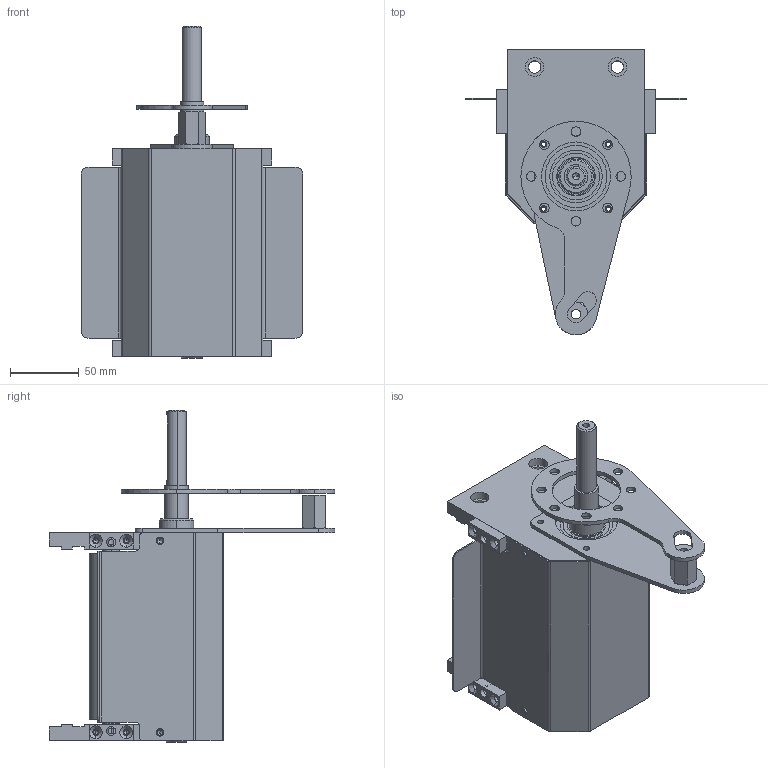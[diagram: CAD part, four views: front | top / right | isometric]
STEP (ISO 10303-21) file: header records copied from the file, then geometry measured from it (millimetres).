
FILE_DESCRIPTION (( 'STEP AP203' ), '1' );
FILE_NAME ('084.030.KC.30.100.STEP', '2019-07-29T10:00:50', ( '' ), ( '' ), 'SwSTEP 2.0', 'SolidWorks 2018', '' );
FILE_SCHEMA (( 'CONFIG_CONTROL_DESIGN' ));
Length unit declared in the file: millimetre
Products named in the file (13): 084.802.036; 356.095.003; 084.802.016_084.802.016; 084.807.005; 084.031.035; 084.801.022; 084.031.034; 084.802.017_084.802.017; 084.031.036; 356.095.005-4_Default<A macchina>; 084.031.033; 084.030.KC.30.100; 084.802.027
Assembly tree (21 placements, depth 2):
  084.030.KC.30.100
    084.031.033
    084.031.034  x2
    084.031.035  x2
    084.031.036
    084.807.005
    084.802.036  x4
    356.095.005-4_Default<A macchina>  x2
    084.802.017_084.802.017
    084.802.016_084.802.016
    356.095.003  x4
    084.801.022
    084.802.027
Bounding box: 161 x 207.5 x 241 mm (x, y, z)
Volume: 702240.3 mm3; surface area: 310053 mm2
Topology: 27 solids, 33 shells, 785 faces, 1862 edges, 1153 vertices
Faces by surface type: cylinder 367, plane 246, torus 92, cone 72, sphere 8
Entity records: 15658 total; most frequent: CARTESIAN_POINT 2803, DIRECTION 2569, ORIENTED_EDGE 2174, EDGE_CURVE 1087, AXIS2_PLACEMENT_3D 1045, VERTEX_POINT 685, EDGE_LOOP 576, CIRCLE 558
